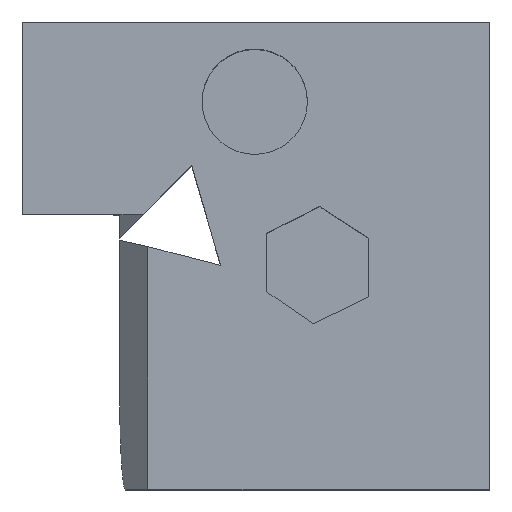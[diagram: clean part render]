
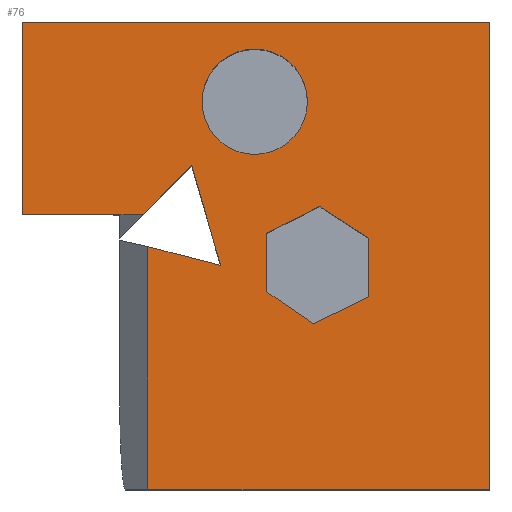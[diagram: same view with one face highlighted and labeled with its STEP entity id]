
A CAD part, top view. The second image highlights one B-rep face of the part: STEP entity #76.
In plain terms, the highlighted planar face has unit normal (0, 0, 1).
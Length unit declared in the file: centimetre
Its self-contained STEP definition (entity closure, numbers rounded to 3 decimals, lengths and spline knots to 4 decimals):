
#3 = ORIENTED_EDGE ( 'NONE', *, *, #816, .F. ) ;
#8 = VERTEX_POINT ( 'NONE', #585 ) ;
#17 = CARTESIAN_POINT ( 'NONE',  ( 523.351, 422.2881, 1000. ) ) ;
#20 = EDGE_CURVE ( 'NONE', #556, #174, #576, .T. ) ;
#29 = EDGE_CURVE ( 'NONE', #652, #430, #241, .T. ) ;
#32 = CARTESIAN_POINT ( 'NONE',  ( 623.1789, 354.2824, 1000. ) ) ;
#36 = ORIENTED_EDGE ( 'NONE', *, *, #228, .F. ) ;
#48 = CARTESIAN_POINT ( 'NONE',  ( 0., 0., 1000. ) ) ;
#50 = VECTOR ( 'NONE', #861, 100. ) ;
#55 = CARTESIAN_POINT ( 'NONE',  ( 523.351, 422.2881, 1000. ) ) ;
#59 = CARTESIAN_POINT ( 'NONE',  ( 424.3817, 479.3543, 1000. ) ) ;
#67 = VERTEX_POINT ( 'NONE', #55 ) ;
#71 = CARTESIAN_POINT ( 'NONE',  ( 497.2758, 829.4588, 1000. ) ) ;
#72 = VERTEX_POINT ( 'NONE', #326 ) ;
#76 = ADVANCED_FACE ( 'NONE', ( #811, #136, #884 ), #600, .T. ) ;
#77 = DIRECTION ( 'NONE',  ( 0., 0., 1. ) ) ;
#78 = VERTEX_POINT ( 'NONE', #889 ) ;
#81 = VECTOR ( 'NONE', #880, 100. ) ;
#82 = LINE ( 'NONE', #17, #597 ) ;
#83 = VECTOR ( 'NONE', #331, 100. ) ;
#85 = ORIENTED_EDGE ( 'NONE', *, *, #859, .F. ) ;
#88 = CARTESIAN_POINT ( 'NONE',  ( 268.3578, 0., 1000. ) ) ;
#92 = VECTOR ( 'NONE', #780, 100. ) ;
#97 = CARTESIAN_POINT ( 'NONE',  ( 268.3578, 519.4719, 1000. ) ) ;
#100 = VERTEX_POINT ( 'NONE', #685 ) ;
#104 = CARTESIAN_POINT ( 'NONE',  ( 0., 1000., 1000. ) ) ;
#111 = ORIENTED_EDGE ( 'NONE', *, *, #259, .F. ) ;
#115 = CARTESIAN_POINT ( 'NONE',  ( 0., 1000., 1000. ) ) ;
#119 = VECTOR ( 'NONE', #513, 100. ) ;
#124 = DIRECTION ( 'NONE',  ( -1., 0., 0. ) ) ;
#128 = VERTEX_POINT ( 'NONE', #608 ) ;
#133 = EDGE_CURVE ( 'NONE', #8, #72, #260, .T. ) ;
#134 = VERTEX_POINT ( 'NONE', #817 ) ;
#136 = FACE_BOUND ( 'NONE', #874, .T. ) ;
#174 = VERTEX_POINT ( 'NONE', #845 ) ;
#181 = VECTOR ( 'NONE', #338, 100. ) ;
#183 = VECTOR ( 'NONE', #700, 100. ) ;
#194 = CARTESIAN_POINT ( 'NONE',  ( 0., 1000., 1000. ) ) ;
#195 = ORIENTED_EDGE ( 'NONE', *, *, #810, .T. ) ;
#199 = CARTESIAN_POINT ( 'NONE',  ( 740.9683, 537.5595, 1000. ) ) ;
#201 = ORIENTED_EDGE ( 'NONE', *, *, #848, .F. ) ;
#207 = DIRECTION ( 'NONE',  ( 1., 0., 0. ) ) ;
#209 = CIRCLE ( 'NONE', #835, 112.7267 ) ;
#225 = VERTEX_POINT ( 'NONE', #88 ) ;
#228 = EDGE_CURVE ( 'NONE', #128, #67, #554, .T. ) ;
#241 = LINE ( 'NONE', #104, #119 ) ;
#242 = DIRECTION ( 'NONE',  ( 0., 0., 1. ) ) ;
#256 = CARTESIAN_POINT ( 'NONE',  ( 610.0025, 829.4588, 1000. ) ) ;
#259 = EDGE_CURVE ( 'NONE', #67, #556, #82, .T. ) ;
#260 = LINE ( 'NONE', #537, #81 ) ;
#265 = DIRECTION ( 'NONE',  ( -0.841, 0.541, 0. ) ) ;
#280 = CIRCLE ( 'NONE', #321, 112.7267 ) ;
#283 = VERTEX_POINT ( 'NONE', #711 ) ;
#289 = CARTESIAN_POINT ( 'NONE',  ( 0., 588.7335, 1000. ) ) ;
#292 = ORIENTED_EDGE ( 'NONE', *, *, #782, .F. ) ;
#296 = ORIENTED_EDGE ( 'NONE', *, *, #606, .F. ) ;
#321 = AXIS2_PLACEMENT_3D ( 'NONE', #875, #242, #721 ) ;
#326 = CARTESIAN_POINT ( 'NONE',  ( 258.5073, 588.7335, 1000. ) ) ;
#331 = DIRECTION ( 'NONE',  ( -0.279, 0.96, 0. ) ) ;
#332 = ORIENTED_EDGE ( 'NONE', *, *, #20, .F. ) ;
#338 = DIRECTION ( 'NONE',  ( -0.889, -0.458, 0. ) ) ;
#350 = AXIS2_PLACEMENT_3D ( 'NONE', #48, #748, #751 ) ;
#351 = CARTESIAN_POINT ( 'NONE',  ( 0., 0., 1000. ) ) ;
#353 = VECTOR ( 'NONE', #797, 100. ) ;
#380 = LINE ( 'NONE', #289, #353 ) ;
#387 = DIRECTION ( 'NONE',  ( 0.968, -0.249, 0. ) ) ;
#391 = LINE ( 'NONE', #675, #181 ) ;
#395 = CARTESIAN_POINT ( 'NONE',  ( 1000., 1000., 1000. ) ) ;
#398 = LINE ( 'NONE', #194, #718 ) ;
#402 = CARTESIAN_POINT ( 'NONE',  ( 740.9683, 537.5595, 1000. ) ) ;
#406 = VECTOR ( 'NONE', #438, 100. ) ;
#410 = ORIENTED_EDGE ( 'NONE', *, *, #133, .F. ) ;
#423 = ORIENTED_EDGE ( 'NONE', *, *, #575, .T. ) ;
#425 = LINE ( 'NONE', #351, #468 ) ;
#430 = VERTEX_POINT ( 'NONE', #634 ) ;
#438 = DIRECTION ( 'NONE',  ( 0., -1., 0. ) ) ;
#445 = LINE ( 'NONE', #866, #406 ) ;
#462 = LINE ( 'NONE', #743, #688 ) ;
#468 = VECTOR ( 'NONE', #207, 100. ) ;
#491 = EDGE_CURVE ( 'NONE', #225, #100, #425, .T. ) ;
#513 = DIRECTION ( 'NONE',  ( 0., -1., 0. ) ) ;
#527 = VECTOR ( 'NONE', #387, 100. ) ;
#537 = CARTESIAN_POINT ( 'NONE',  ( 362.4754, 692.7016, 1000. ) ) ;
#554 = LINE ( 'NONE', #567, #92 ) ;
#556 = VERTEX_POINT ( 'NONE', #577 ) ;
#565 = LINE ( 'NONE', #705, #183 ) ;
#567 = CARTESIAN_POINT ( 'NONE',  ( 523.351, 547.9295, 1000. ) ) ;
#570 = VECTOR ( 'NONE', #265, 100. ) ;
#572 = ORIENTED_EDGE ( 'NONE', *, *, #625, .F. ) ;
#575 = EDGE_CURVE ( 'NONE', #607, #225, #445, .T. ) ;
#576 = LINE ( 'NONE', #32, #50 ) ;
#577 = CARTESIAN_POINT ( 'NONE',  ( 623.1789, 354.2824, 1000. ) ) ;
#585 = CARTESIAN_POINT ( 'NONE',  ( 362.4754, 692.7016, 1000. ) ) ;
#594 = LINE ( 'NONE', #739, #527 ) ;
#597 = VECTOR ( 'NONE', #640, 100. ) ;
#600 = PLANE ( 'NONE',  #350 ) ;
#602 = LINE ( 'NONE', #402, #570 ) ;
#606 = EDGE_CURVE ( 'NONE', #78, #820, #280, .T. ) ;
#607 = VERTEX_POINT ( 'NONE', #97 ) ;
#608 = CARTESIAN_POINT ( 'NONE',  ( 523.351, 547.9295, 1000. ) ) ;
#616 = ORIENTED_EDGE ( 'NONE', *, *, #491, .T. ) ;
#617 = ORIENTED_EDGE ( 'NONE', *, *, #29, .T. ) ;
#625 = EDGE_CURVE ( 'NONE', #72, #430, #380, .T. ) ;
#634 = CARTESIAN_POINT ( 'NONE',  ( 0., 588.7335, 1000. ) ) ;
#640 = DIRECTION ( 'NONE',  ( 0.826, -0.563, 0. ) ) ;
#649 = ORIENTED_EDGE ( 'NONE', *, *, #698, .T. ) ;
#652 = VERTEX_POINT ( 'NONE', #115 ) ;
#668 = EDGE_CURVE ( 'NONE', #607, #283, #594, .T. ) ;
#675 = CARTESIAN_POINT ( 'NONE',  ( 635.1532, 605.5652, 1000. ) ) ;
#685 = CARTESIAN_POINT ( 'NONE',  ( 1000., 0., 1000. ) ) ;
#687 = DIRECTION ( 'NONE',  ( 0., 1., 0. ) ) ;
#688 = VECTOR ( 'NONE', #687, 100. ) ;
#698 = EDGE_CURVE ( 'NONE', #714, #652, #398, .T. ) ;
#700 = DIRECTION ( 'NONE',  ( 0., 1., 0. ) ) ;
#705 = CARTESIAN_POINT ( 'NONE',  ( 740.9683, 411.9181, 1000. ) ) ;
#711 = CARTESIAN_POINT ( 'NONE',  ( 424.3817, 479.3543, 1000. ) ) ;
#714 = VERTEX_POINT ( 'NONE', #395 ) ;
#718 = VECTOR ( 'NONE', #124, 100. ) ;
#721 = DIRECTION ( 'NONE',  ( 1., 0., 0. ) ) ;
#739 = CARTESIAN_POINT ( 'NONE',  ( 205.4269, 535.653, 1000. ) ) ;
#743 = CARTESIAN_POINT ( 'NONE',  ( 1000., 1000., 1000. ) ) ;
#748 = DIRECTION ( 'NONE',  ( 0., 0., 1. ) ) ;
#751 = DIRECTION ( 'NONE',  ( 1., 0., 0. ) ) ;
#764 = ORIENTED_EDGE ( 'NONE', *, *, #668, .F. ) ;
#769 = DIRECTION ( 'NONE',  ( 1., 0., 0. ) ) ;
#770 = ORIENTED_EDGE ( 'NONE', *, *, #807, .F. ) ;
#780 = DIRECTION ( 'NONE',  ( 0., -1., 0. ) ) ;
#782 = EDGE_CURVE ( 'NONE', #283, #8, #818, .T. ) ;
#785 = VERTEX_POINT ( 'NONE', #199 ) ;
#797 = DIRECTION ( 'NONE',  ( -1., 0., 0. ) ) ;
#807 = EDGE_CURVE ( 'NONE', #785, #134, #602, .T. ) ;
#810 = EDGE_CURVE ( 'NONE', #100, #714, #462, .T. ) ;
#811 = FACE_BOUND ( 'NONE', #824, .T. ) ;
#816 = EDGE_CURVE ( 'NONE', #134, #128, #391, .T. ) ;
#817 = CARTESIAN_POINT ( 'NONE',  ( 635.1532, 605.5652, 1000. ) ) ;
#818 = LINE ( 'NONE', #59, #83 ) ;
#820 = VERTEX_POINT ( 'NONE', #256 ) ;
#824 = EDGE_LOOP ( 'NONE', ( #85, #332, #111, #36, #3, #770 ) ) ;
#835 = AXIS2_PLACEMENT_3D ( 'NONE', #71, #77, #769 ) ;
#845 = CARTESIAN_POINT ( 'NONE',  ( 740.9683, 411.9181, 1000. ) ) ;
#848 = EDGE_CURVE ( 'NONE', #820, #78, #209, .T. ) ;
#859 = EDGE_CURVE ( 'NONE', #174, #785, #565, .T. ) ;
#861 = DIRECTION ( 'NONE',  ( 0.898, 0.44, 0. ) ) ;
#866 = CARTESIAN_POINT ( 'NONE',  ( 268.3578, 588.7335, 1000. ) ) ;
#874 = EDGE_LOOP ( 'NONE', ( #201, #296 ) ) ;
#875 = CARTESIAN_POINT ( 'NONE',  ( 497.2758, 829.4588, 1000. ) ) ;
#880 = DIRECTION ( 'NONE',  ( -0.707, -0.707, 0. ) ) ;
#884 = FACE_OUTER_BOUND ( 'NONE', #886, .T. ) ;
#886 = EDGE_LOOP ( 'NONE', ( #423, #616, #195, #649, #617, #572, #410, #292, #764 ) ) ;
#889 = CARTESIAN_POINT ( 'NONE',  ( 384.5491, 829.4588, 1000. ) ) ;
